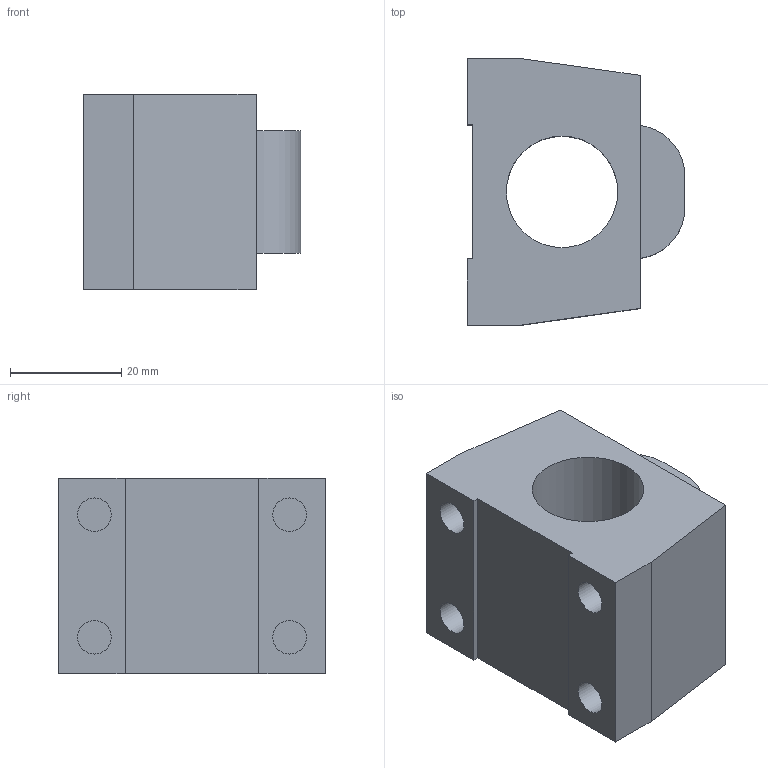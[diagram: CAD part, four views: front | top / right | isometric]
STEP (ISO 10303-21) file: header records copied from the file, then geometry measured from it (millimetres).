
FILE_DESCRIPTION(/* description */ (''),/* implementation_level */ '2;1');
FILE_NAME(/* name */ '20-5B1',/* time_stamp */ '2007-05-17T17:55:06+08:00',/* author */ (''),/* organization */ (''),/* preprocessor_version */ 'ST-DEVELOPER v9',/* originating_system */ 'UGS - NX 4.0',/* authorisation */ '');
FILE_SCHEMA (('CONFIG_CONTROL_DESIGN'));
Length unit declared in the file: millimetre
Products named in the file (1): 20-5B1
Bounding box: 39 x 48 x 35 mm (x, y, z)
Volume: 40293 mm3; surface area: 10937.8 mm2
Topology: 1 solids, 1 shells, 26 faces, 57 edges, 38 vertices
Faces by surface type: plane 19, cylinder 7
Full cylindrical faces by diameter (mm): 6 x4, 20 x1
Entity records: 780 total; most frequent: DIRECTION 120, CARTESIAN_POINT 117, ORIENTED_EDGE 104, EDGE_CURVE 52, AXIS2_PLACEMENT_3D 41, EDGE_LOOP 38, VERTEX_POINT 38, LINE 38
